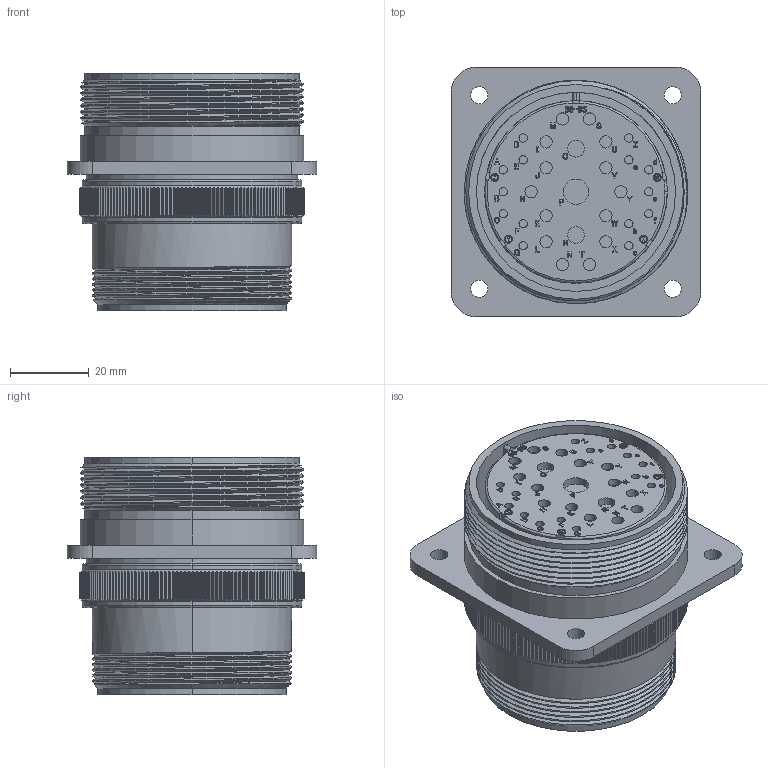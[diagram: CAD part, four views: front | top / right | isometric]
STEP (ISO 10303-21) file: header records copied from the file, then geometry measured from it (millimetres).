
FILE_DESCRIPTION (( 'STEP AP203' ), '1' );
FILE_NAME ('DMS3100A36-9S.STEP', '2018-08-09T00:18:25', ( '' ), ( '' ), 'SwSTEP 2.0', 'SolidWorks 2018', '' );
FILE_SCHEMA (( 'CONFIG_CONTROL_DESIGN' ));
Length unit declared in the file: millimetre
Products named in the file (1): DMS3100A36-9S
Bounding box: 63.5 x 63.5 x 60.5 mm (x, y, z)
Volume: 90961.1 mm3; surface area: 42018 mm2
Topology: 1 solids, 1 shells, 3468 faces, 9599 edges, 6332 vertices
Faces by surface type: plane 1411, cylinder 1347, bspline 653, torus 27, cone 17, sphere 13
Entity records: 142001 total; most frequent: CARTESIAN_POINT 61631, ORIENTED_EDGE 19156, DIRECTION 12741, EDGE_CURVE 9578, VERTEX_POINT 6328, LINE 4789, VECTOR 4789, AXIS2_PLACEMENT_3D 3976
